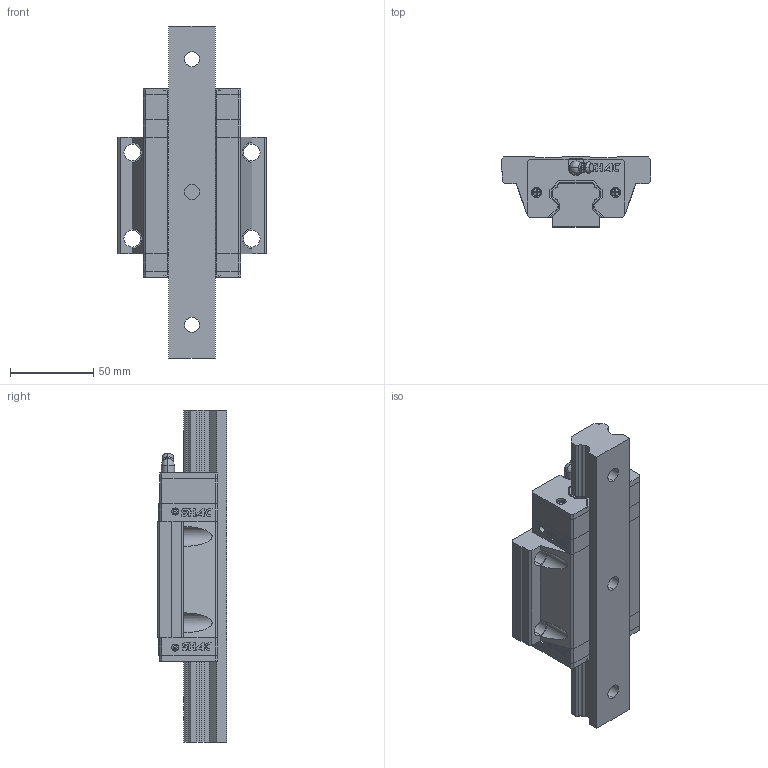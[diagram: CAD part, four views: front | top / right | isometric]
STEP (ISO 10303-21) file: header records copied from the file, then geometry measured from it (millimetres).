
FILE_DESCRIPTION (( 'STEP AP214' ), '1' );
FILE_NAME ('STP_GHW30CA_(E2)自润式_(R)上锁式_刮油片＋防尘条_1_200_200_GHW30CA_GHW30CA.step', '2020-06-27T08:07:17', ( 'IT Division' ), ( 'IT' ), 'SwSTEP 2.0', 'SolidWorks 2016', '' );
FILE_SCHEMA (( 'AUTOMOTIVE_DESIGN' ));
Length unit declared in the file: millimetre
Products named in the file (3): STP_GHW30CA_(E2)自润式_(R)上锁式_刮油片＋防尘条_1_200_200_GHW30CA_GHW30CA_1; STP_GHW30CA_(E2)自润式_(R)上锁式_刮油片＋防尘条_1_200_200_GHW30CA_GHW30CA_2; STP_GHW30CA_(E2)自润式_(R)上锁式_刮油片＋防尘条_1_200_200_GHW30CA_GHW30CA
Assembly tree (2 placements, depth 2):
  STP_GHW30CA_(E2)自润式_(R)上锁式_刮油片＋防尘条_1_200_200_GHW30CA_GHW30CA
    STP_GHW30CA_(E2)自润式_(R)上锁式_刮油片＋防尘条_1_200_200_GHW30CA_GHW30CA_1
    STP_GHW30CA_(E2)自润式_(R)上锁式_刮油片＋防尘条_1_200_200_GHW30CA_GHW30CA_2
Bounding box: 90 x 42 x 200 mm (x, y, z)
Volume: 338725.2 mm3; surface area: 78745.5 mm2
Topology: 8 solids, 8 shells, 845 faces, 2279 edges, 1502 vertices
Faces by surface type: plane 629, cylinder 158, torus 25, cone 23, sphere 10
Entity records: 30348 total; most frequent: CARTESIAN_POINT 4813, ORIENTED_EDGE 4550, DIRECTION 4396, EDGE_CURVE 2275, VECTOR 1774, LINE 1774, VERTEX_POINT 1500, AXIS2_PLACEMENT_3D 1311
